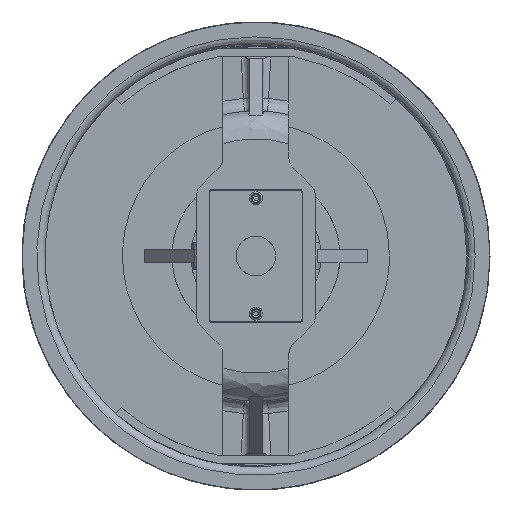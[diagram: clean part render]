
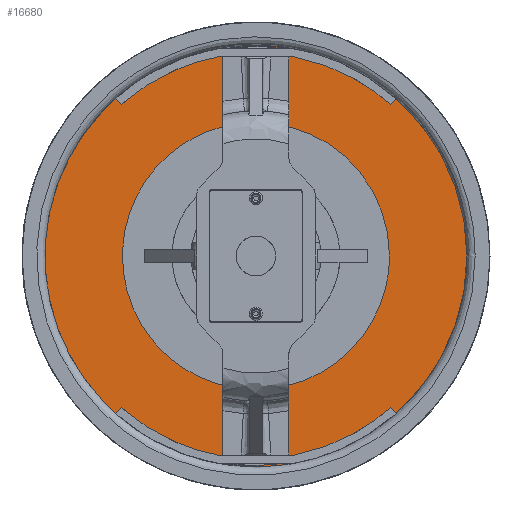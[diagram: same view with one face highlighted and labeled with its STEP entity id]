
A CAD part, front view. The second image highlights one B-rep face of the part: STEP entity #16680.
In plain terms, the highlighted free-form (B-spline) face has degree [1, 1] with [2, 2] control points.
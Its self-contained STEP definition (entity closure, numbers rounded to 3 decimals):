
#16622=CARTESIAN_POINT('V34',(40.5,21.5,
   0.));
#16623=VERTEX_POINT('V34',#16622);
#16631=CARTESIAN_POINT('E42',(40.5,21.5,
   0.));
#16632=CARTESIAN_POINT('E42',(40.5,21.5,
   70.148));
#16633=CARTESIAN_POINT('E42',(-20.25,21.5,
   35.074));
#16634=CARTESIAN_POINT('E42',(-81.0,21.5,0.)
   );
#16635=CARTESIAN_POINT('E42',(-20.25,21.5,
   -35.074));
#16636=CARTESIAN_POINT('E42',(40.5,21.5,
   -70.148));
#16637=CARTESIAN_POINT('E42',(40.5,21.5,
   0.));
#16645=(BOUNDED_CURVE()B_SPLINE_CURVE(2,(#16631,#16632,#16633,
   #16634,#16635,#16636,#16637),.CIRCULAR_ARC.,.T.,.U.)
   B_SPLINE_CURVE_WITH_KNOTS((3,2,2,3),(0.0,35.074,
   70.148,105.222),.UNSPECIFIED.)CURVE()
   GEOMETRIC_REPRESENTATION_ITEM()RATIONAL_B_SPLINE_CURVE((1.0,
   0.5,1.0,0.5,1.0,0.5,1.0)
   )REPRESENTATION_ITEM('E42'));
#16646=EDGE_CURVE('E42',#16623,#16623,#16645,.T.);
#16651=CARTESIAN_POINT('F11',(70.4,21.5,
   -70.4));
#16652=CARTESIAN_POINT('F11',(70.4,21.5,
   70.4));
#16653=CARTESIAN_POINT('F11',(-70.4,21.5,
   -70.4));
#16654=CARTESIAN_POINT('F11',(-70.4,21.5,
   70.4));
#16655=QUASI_UNIFORM_SURFACE('F11',1,1,((#16651,#16653),(#16652,
   #16654)),.PLANE_SURF.,.F.,.F.,.U.);
#16656=CARTESIAN_POINT('V33',(64.,21.5,
   0.));
#16657=VERTEX_POINT('V33',#16656);
#16658=CARTESIAN_POINT('E41',(64.,21.5,
   0.));
#16659=CARTESIAN_POINT('E41',(64.,21.5,
   -110.851));
#16660=CARTESIAN_POINT('E41',(-32.,21.5,
   -55.426));
#16661=CARTESIAN_POINT('E41',(-128.,
   21.5,0.));
#16662=CARTESIAN_POINT('E41',(-32.,21.5,
   55.426));
#16663=CARTESIAN_POINT('E41',(64.,21.5,
   110.851));
#16664=CARTESIAN_POINT('E41',(64.,21.5,
   0.));
#16672=(BOUNDED_CURVE()B_SPLINE_CURVE(2,(#16658,#16659,#16660,
   #16661,#16662,#16663,#16664),.CIRCULAR_ARC.,.T.,.U.)
   B_SPLINE_CURVE_WITH_KNOTS((3,2,2,3),(0.0,11.669,
   23.337,35.006),.UNSPECIFIED.)CURVE()
   GEOMETRIC_REPRESENTATION_ITEM()RATIONAL_B_SPLINE_CURVE((1.0,
   0.5,1.0,0.5,1.0,0.5,1.0)
   )REPRESENTATION_ITEM('E41'));
#16673=EDGE_CURVE('E41',#16657,#16657,#16672,.T.);
#16674=ORIENTED_EDGE('E41',*,*,#16673,.F.);
#16675=EDGE_LOOP('F11',(#16674));
#16676=FACE_OUTER_BOUND('F11',#16675,.T.);
#16677=ORIENTED_EDGE('F20',*,*,#16646,.F.);
#16678=EDGE_LOOP('F11',(#16677));
#16679=FACE_BOUND('F11',#16678,.T.);
#16680=ADVANCED_FACE('F11',(#16676,#16679),#16655,.T.);
